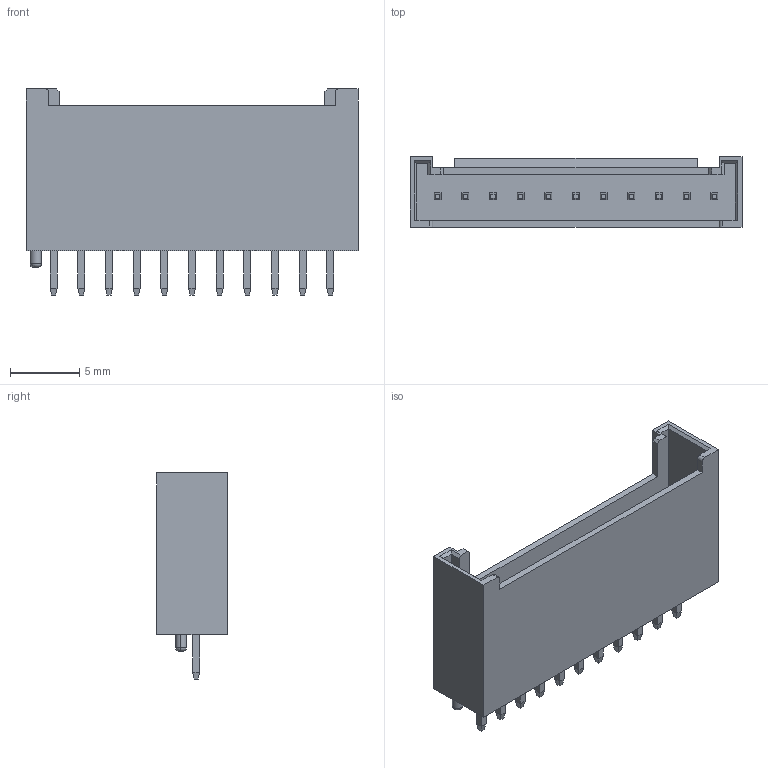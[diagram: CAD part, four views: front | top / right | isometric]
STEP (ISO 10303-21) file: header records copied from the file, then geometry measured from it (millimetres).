
FILE_DESCRIPTION(('CATIA V5 STEP Exchange'),'2;1');
FILE_NAME('Z:\3D文件\小覃\条形连接器-小黄\HYH\NA\HC-HYH-11A-05(2.0 单排 直针 带柱-HCTL).stp','2025-04-17T06:14:11+00:00',('none'),('none'),'CATIA Version 5 Release 20 GA (IN-10)','CATIA V5 STEP AP203','none');
FILE_SCHEMA(('CONFIG_CONTROL_DESIGN'));
Length unit declared in the file: millimetre
Products named in the file (1): Part2
Bounding box: 24 x 5.1 x 14.9 mm (x, y, z)
Volume: 663.2 mm3; surface area: 1303.4 mm2
Topology: 1 solids, 1 shells, 244 faces, 563 edges, 344 vertices
Faces by surface type: plane 238, cylinder 4, revolution 2
Entity records: 6033 total; most frequent: ORIENTED_EDGE 1126, CARTESIAN_POINT 1036, DIRECTION 785, EDGE_CURVE 563, VECTOR 547, LINE 547, VERTEX_POINT 344, EDGE_LOOP 267
